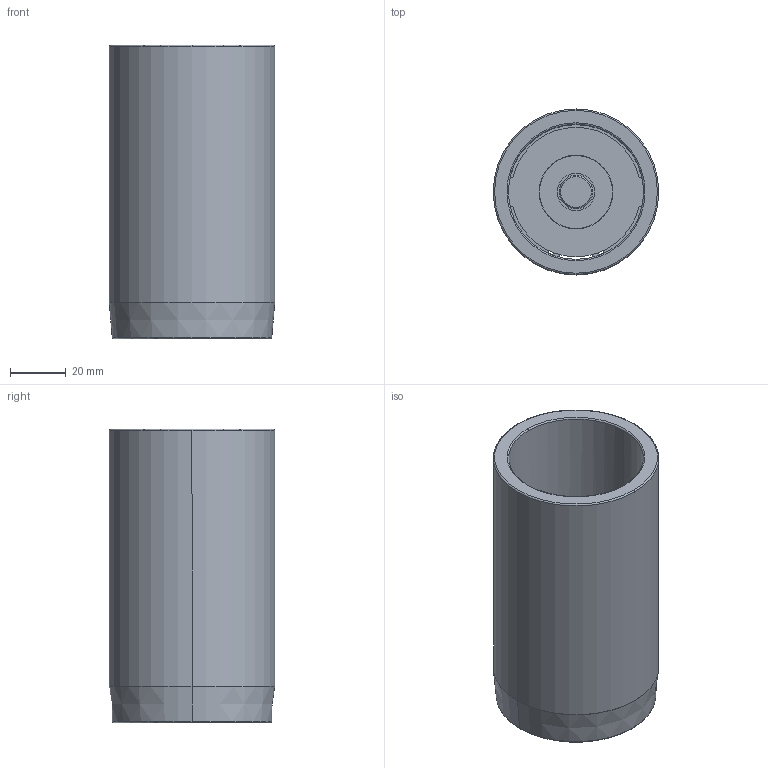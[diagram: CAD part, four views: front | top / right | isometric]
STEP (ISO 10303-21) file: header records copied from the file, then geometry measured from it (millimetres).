
FILE_DESCRIPTION((''),'2;1');
FILE_NAME('C12_048_105.stp','2009-01-28T11:36:53',(''),(''),'Mechanical Desktop 2009','Mechanical Desktop 2009',', , ');
FILE_SCHEMA(('CONFIG_CONTROL_DESIGN'));
Length unit declared in the file: millimetre
Products named in the file (2): Product; blmdl1
Assembly tree (1 placements, depth 2):
  Product
    blmdl1
Bounding box: 59.25 x 59.25 x 105 mm (x, y, z)
Volume: 103858.1 mm3; surface area: 46278.1 mm2
Topology: 5 solids, 5 shells, 79 faces, 200 edges, 134 vertices
Faces by surface type: cylinder 34, plane 29, torus 10, cone 6
Entity records: 2585 total; most frequent: DIRECTION 480, CARTESIAN_POINT 435, ORIENTED_EDGE 400, AXIS2_PLACEMENT_3D 203, EDGE_CURVE 200, VERTEX_POINT 134, CIRCLE 122, EDGE_LOOP 92
